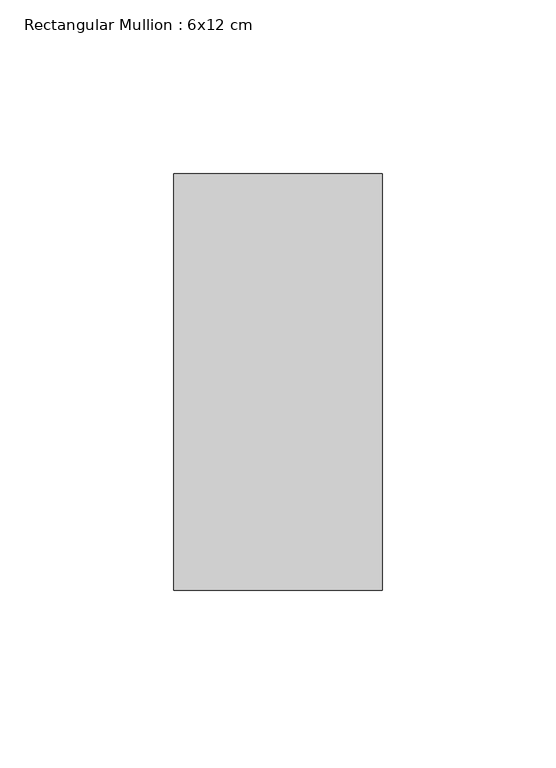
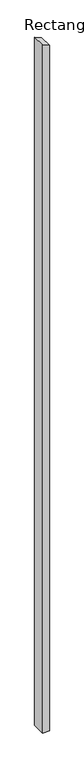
"""IFC4 building model written with IfcOpenShell, lengths in millimetres: member geometry, Rectangular Mullion : 6x12 cm."""

from ifc_helpers import new_model, si_unit, frame, origin, place, context, project, spatial, polyline, outline, extrude, source, transform, mapped, element, save


def rectangular_mullion_6x12_cm_56336b06(model_context):
    return source(origin(), model_context, "Body", "SweptSolid", [
        extrude(outline(polyline([(-54.2281179, 30.0), (-28.4188043, -30.0), (-6437.0170639, -30.0), (-6437.0170639, 30.0), (-54.2281179, 30.0)])), frame((0.0, 85.0, 0.0), z_axis=(0.0, 1.0, 0.0), x_axis=(0.0, 0.0, 1.0)), (0.0, 0.0, 1.0), 120.0),
    ])


if __name__ == "__main__":
    model = new_model("IFC4")
    model_context = context("Model", 3, world=origin())
    ifc_project = project(units=[si_unit("LENGTHUNIT", "METRE", prefix="MILLI")], contexts=[model_context])
    site = spatial("IfcSite", under=ifc_project)
    building = spatial("IfcBuilding", under=site)
    placement = place(None, origin())
    rectangular_mullion_6x12_cm_shape = rectangular_mullion_6x12_cm_56336b06(model_context)
    element("IfcMember", 1, ObjectType="Rectangular Mullion : 6x12 cm", at=placement, inside=building, context=model_context, shape_type="MappedRepresentation", body=[
        mapped(rectangular_mullion_6x12_cm_shape, transform((0.0, 0.0, 0.0), x_axis=(1.0, 0.0, 0.0), y_axis=(0.0, 1.0, 0.0), z_axis=(0.0, 0.0, 1.0))),
    ])
    save(model, "model.ifc")
